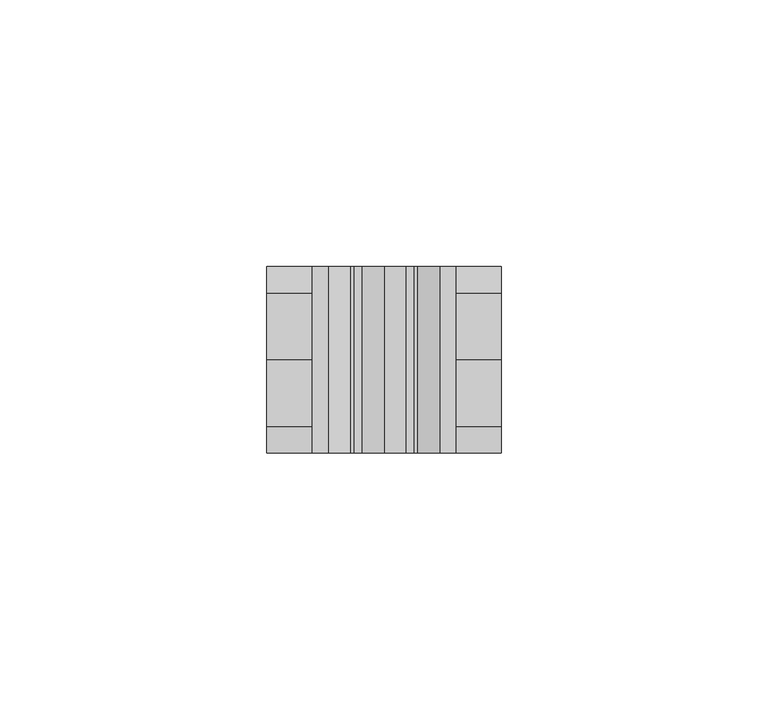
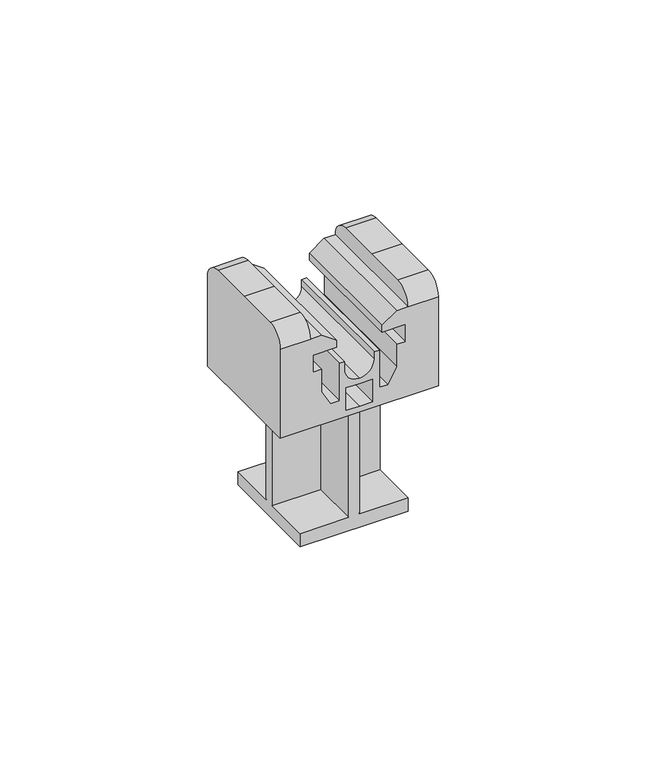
"""IFC4 building model written with IfcOpenShell, lengths in millimetres: proxy geometry, КНС_ДержательУниверсальный_DKC : ND2000_Полипропилен."""

from ifc_helpers import new_model, si_unit, frame, origin, place, context, project, spatial, polyline, circle_curve, faceted_brep, source, transform, mapped, element, save
from ifc_brep_helpers import plane_surface, cylinder_surface, revolved_surface, advanced_brep


def security_devices_8e15ad44(model_context):
    return source(origin(), model_context, "Body", "SolidModel", [
        faceted_brep([(-1.5, 15.0, 3.8934606), (-15.0, 15.0, 3.8934606), (-15.0, 1.5, 3.8934606), (-1.5, 1.5, 3.8934606), (15.0, 15.0, 3.8934606), (1.5, 15.0, 3.8934606), (1.5, 1.5, 3.8934606), (15.0, 1.5, 3.8934606), (-15.0, -1.5, 3.8934606), (-15.0, -15.0, 3.8934606), (-1.5, -15.0, 3.8934606), (-1.5, -1.5, 3.8934606), (1.5, -15.0, 3.8934606), (15.0, -15.0, 3.8934606), (15.0, -1.5, 3.8934606), (1.5, -1.5, 3.8934606), (15.0, 15.0, 0.0), (15.0, -15.0, 0.0), (-15.0, -15.0, 0.0), (-15.0, 15.0, 0.0), (-1.5, 15.0, 35.8420506), (1.5, 15.0, 35.8420506), (-15.0, -1.5, 35.8420506), (-15.0, 1.5, 35.8420506), (1.5, -15.0, 35.8420506), (-1.5, -15.0, 35.8420506), (15.0, 1.5, 35.8420506), (15.0, -1.5, 35.8420506), (-1.5, 1.5, 35.8420506), (-1.5, -1.5, 35.8420506), (1.5, -1.5, 35.8420506), (1.5, 1.5, 35.8420506)], [[[0, 1, 2, 3]], [[4, 5, 6, 7]], [[8, 9, 10, 11]], [[12, 13, 14, 15]], [[16, 17, 18, 19]], [[4, 16, 19, 1, 0, 20, 21, 5]], [[1, 19, 18, 9, 8, 22, 23, 2]], [[9, 18, 17, 13, 12, 24, 25, 10]], [[16, 4, 7, 26, 27, 14, 13, 17]], [[21, 20, 28, 23, 22, 29, 25, 24, 30, 27, 26, 31]], [[28, 20, 0, 3]], [[23, 28, 3, 2]], [[29, 22, 8, 11]], [[25, 29, 11, 10]], [[30, 24, 12, 15]], [[27, 30, 15, 14]], [[31, 26, 7, 6]], [[21, 31, 6, 5]]]),
        advanced_brep(
        [(22.0, 0.0, 35.8420506), (22.0, 17.5, 35.8420506), (22.0, 17.5, 62.0321332), (22.0, 12.5321332, 67.0), (22.0, 0.0, 67.0), (22.0, -12.5321332, 67.0), (22.0, -17.5, 62.0321332), (22.0, -17.5, 35.8420506), (-22.0, 0.0, 35.8420506), (-22.0, -17.5, 35.8420506), (-22.0, -17.5, 62.0321332), (-22.0, -12.5321332, 67.0), (-22.0, 0.0, 67.0), (-22.0, 12.5321332, 67.0), (-22.0, 17.5, 62.0321332), (-22.0, 17.5, 35.8420506), (-13.5891675, 17.5, 62.0321332), (-10.4652694, 17.5, 62.0), (-6.3236182, 17.5, 59.1321178), (-6.3236182, 17.5, 57.1011985), (-12.8526517, 17.5, 57.1011985), (-12.8526517, 17.5, 52.1011985), (-10.5094996, 17.5, 52.1011985), (-10.5094996, 17.5, 45.4755595), (-8.0094996, 17.5, 41.1454325), (-5.5528318, 17.5, 41.1454325), (-5.5528318, 17.5, 52.1011985), (-4.1714445, 17.5, 52.1011985), (-4.1714445, 17.5, 49.9720018), (0.0, 17.5, 45.7844871), (4.1714445, 17.5, 49.9720018), (4.1714445, 17.5, 52.1011985), (5.5528318, 17.5, 52.1011985), (5.5528318, 17.5, 41.1454325), (8.0094996, 17.5, 41.1454325), (10.5094996, 17.5, 45.4755595), (10.5094996, 17.5, 52.1011985), (12.8526517, 17.5, 52.1011985), (12.8526517, 17.5, 57.1011985), (6.3236182, 17.5, 57.1011985), (6.3236182, 17.5, 59.1321178), (10.4652694, 17.5, 62.0321332), (13.5891675, 17.5, 62.0), (0.0, 17.5, 44.2529558), (-3.6772154, 17.5, 44.2529558), (-3.6772154, 17.5, 37.6294335), (0.0, 17.5, 37.6294335), (3.6772154, 17.5, 37.6294335), (3.6772154, 17.5, 44.2529558), (13.5891675, 12.5321332, 67.0), (-13.5891675, 12.5321332, 67.0), (13.5891675, 0.0, 67.0), (-13.5891675, 0.0, 67.0), (13.5891675, -12.5321332, 67.0), (-13.5891675, -12.5321332, 67.0), (13.5891675, -17.5, 62.0321332), (-13.5891675, -17.5, 62.0321332), (10.4652694, -17.5, 62.0), (6.3236182, -17.5, 59.1321178), (6.3236182, -17.5, 57.1011985), (12.8526517, -17.5, 57.1011985), (12.8526517, -17.5, 52.1011985), (10.5094996, -17.5, 52.1011985), (10.5094996, -17.5, 45.4755595), (8.0094996, -17.5, 41.1454325), (5.5528318, -17.5, 41.1454325), (5.5528318, -17.5, 52.1011985), (4.1714445, -17.5, 52.1011985), (4.1714445, -17.5, 49.9720018), (0.0, -17.5, 45.7844871), (-4.1714445, -17.5, 49.9720018), (-4.1714445, -17.5, 52.1011985), (-5.5528318, -17.5, 52.1011985), (-5.5528318, -17.5, 41.1454325), (-8.0094996, -17.5, 41.1454325), (-10.5094996, -17.5, 45.4755595), (-10.5094996, -17.5, 52.1011985), (-12.8526517, -17.5, 52.1011985), (-12.8526517, -17.5, 57.1011985), (-6.3236182, -17.5, 57.1011985), (-6.3236182, -17.5, 59.1321178), (-10.4652694, -17.5, 62.0321332), (-3.6772154, -17.5, 44.2529558), (0.0, -17.5, 44.2529558), (3.6772154, -17.5, 44.2529558), (3.6772154, -17.5, 37.6294335), (0.0, -17.5, 37.6294335), (-3.6772154, -17.5, 37.6294335)],
        [
            (0, 1),
            (1, 2),
            (2, 3, circle_curve(frame((22.0, 12.5321332, 62.0321332), z_axis=(1.0, 0.0, 0.0), x_axis=(0.0, 1.0, 0.0)), 4.9678668)),
            (3, 4),
            (4, 5),
            (5, 6, circle_curve(frame((22.0, -12.5321332, 62.0321332), z_axis=(1.0, 0.0, 0.0), x_axis=(0.0, 1.0, 0.0)), 4.9678668)),
            (6, 7),
            (7, 0),
            (8, 9),
            (9, 10),
            (10, 11, circle_curve(frame((-22.0, -12.5321332, 62.0321332), z_axis=(-1.0, 0.0, 0.0), x_axis=(0.0, 1.0, 0.0)), 4.9678668)),
            (11, 12),
            (12, 13),
            (13, 14, circle_curve(frame((-22.0, 12.5321332, 62.0321332), z_axis=(-1.0, 0.0, 0.0), x_axis=(0.0, 1.0, 0.0)), 4.9678668)),
            (14, 15),
            (15, 8),
            (0, 8),
            (15, 1),
            (14, 16),
            (16, 17),
            (17, 18),
            (18, 19),
            (19, 20),
            (20, 21),
            (21, 22),
            (22, 23),
            (23, 24),
            (24, 25),
            (25, 26),
            (26, 27),
            (27, 28),
            (28, 29, circle_curve(frame((0.0161011, 17.5, 49.9720018), z_axis=(0.0, -1.0, 0.0), x_axis=(1.0, 0.0, 0.0)), 4.1875456)),
            (29, 30, circle_curve(frame((-0.0161011, 17.5, 49.9720018), z_axis=(0.0, -1.0, 0.0), x_axis=(1.0, 0.0, 0.0)), 4.1875456)),
            (30, 31),
            (31, 32),
            (32, 33),
            (33, 34),
            (34, 35),
            (35, 36),
            (36, 37),
            (37, 38),
            (38, 39),
            (39, 40),
            (40, 41),
            (41, 42),
            (42, 2),
            (43, 44),
            (44, 45),
            (45, 46),
            (46, 47),
            (47, 48),
            (48, 43),
            (42, 49, circle_curve(frame((13.5891675, 12.5321332, 62.0321332), z_axis=(1.0, 0.0, 0.0), x_axis=(0.0, 1.0, 0.0)), 4.9678668)),
            (49, 3),
            (13, 50),
            (50, 16, circle_curve(frame((-13.5891675, 12.5321332, 62.0321332), z_axis=(-1.0, 0.0, 0.0), x_axis=(0.0, 1.0, 0.0)), 4.9678668)),
            (49, 51),
            (51, 4),
            (12, 52),
            (52, 50),
            (51, 53),
            (53, 5),
            (11, 54),
            (54, 52),
            (53, 55, circle_curve(frame((13.5891675, -12.5321332, 62.0321332), z_axis=(1.0, 0.0, 0.0), x_axis=(0.0, 1.0, 0.0)), 4.9678668)),
            (55, 6),
            (10, 56),
            (56, 54, circle_curve(frame((-13.5891675, -12.5321332, 62.0321332), z_axis=(-1.0, 0.0, 0.0), x_axis=(0.0, 1.0, 0.0)), 4.9678668)),
            (55, 57),
            (57, 58),
            (58, 59),
            (59, 60),
            (60, 61),
            (61, 62),
            (62, 63),
            (63, 64),
            (64, 65),
            (65, 66),
            (66, 67),
            (67, 68),
            (68, 69, circle_curve(frame((-0.0161011, -17.5, 49.9720018), z_axis=(0.0, 1.0, 0.0), x_axis=(1.0, 0.0, 0.0)), 4.1875456)),
            (69, 70, circle_curve(frame((0.0161011, -17.5, 49.9720018), z_axis=(0.0, 1.0, 0.0), x_axis=(1.0, 0.0, 0.0)), 4.1875456)),
            (70, 71),
            (71, 72),
            (72, 73),
            (73, 74),
            (74, 75),
            (75, 76),
            (76, 77),
            (77, 78),
            (78, 79),
            (79, 80),
            (80, 81),
            (81, 56),
            (9, 7),
            (82, 83),
            (83, 84),
            (84, 85),
            (85, 86),
            (86, 87),
            (87, 82),
            (56, 16),
            (81, 17),
            (80, 18),
            (79, 19),
            (78, 20),
            (77, 21),
            (76, 22),
            (75, 23),
            (74, 24),
            (73, 25),
            (72, 26),
            (71, 27),
            (70, 28),
            (69, 29),
            (68, 30),
            (67, 31),
            (66, 32),
            (65, 33),
            (64, 34),
            (63, 35),
            (62, 36),
            (61, 37),
            (60, 38),
            (59, 39),
            (58, 40),
            (57, 41),
            (55, 42),
            (43, 83),
            (82, 44),
            (87, 45),
            (86, 46),
            (85, 47),
            (84, 48),
        ],
        [
            plane_surface(frame((22.0, 17.5, 35.8420506), z_axis=(1.0, 0.0, 0.0), x_axis=(0.0, 1.0, 0.0))),
            plane_surface(frame((-22.0, 17.5, 35.8420506), z_axis=(-1.0, 0.0, 0.0), x_axis=(0.0, -1.0, 0.0))),
            plane_surface(frame((22.0, 0.0, 35.8420506), z_axis=(0.0, 0.0, -1.0), x_axis=(-1.0, 0.0, 0.0))),
            plane_surface(frame((22.0, 17.5, 35.8420506), z_axis=(0.0, 1.0, 0.0), x_axis=(-1.0, 0.0, 0.0))),
            cylinder_surface(frame((-22.0, 12.5321332, 62.0321332), z_axis=(1.0, 0.0, 0.0), x_axis=(0.0, 1.0, 0.0)), 4.9678668),
            plane_surface(frame((22.0, 12.5321332, 67.0), z_axis=(0.0, 0.0, 1.0), x_axis=(-1.0, 0.0, 0.0))),
            plane_surface(frame((22.0, 0.0, 67.0), z_axis=(0.0, 0.0, 1.0), x_axis=(-1.0, 0.0, 0.0))),
            cylinder_surface(frame((-22.0, -12.5321332, 62.0321332), z_axis=(1.0, 0.0, 0.0), x_axis=(0.0, 1.0, 0.0)), 4.9678668),
            plane_surface(frame((22.0, -17.5, 62.0321332), z_axis=(0.0, -1.0, 0.0), x_axis=(-1.0, 0.0, 0.0))),
            plane_surface(frame((22.0, -17.5, 35.8420506), z_axis=(0.0, 0.0, -1.0), x_axis=(-1.0, 0.0, 0.0))),
            plane_surface(frame((-13.5891675, -65.0, 67.0), z_axis=(1.0, 0.0, 0.0), x_axis=(0.0, 1.0, 0.0))),
            plane_surface(frame((-13.5891675, -65.0, 62.0), z_axis=(0.0, 0.0, 1.0), x_axis=(0.0, 1.0, 0.0))),
            plane_surface(frame((-10.4193784, -65.0, 62.0), z_axis=(0.5735764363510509, 0.0, 0.8191520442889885), x_axis=(0.0, 1.0, 0.0))),
            plane_surface(frame((-6.3236182, -65.0, 59.1321178), z_axis=(1.0, 0.0, 0.0), x_axis=(0.0, 1.0, 0.0))),
            plane_surface(frame((-6.3236182, -65.0, 57.1011985), z_axis=(0.0, 0.0, -1.0), x_axis=(0.0, 1.0, 0.0))),
            plane_surface(frame((-12.8526517, -65.0, 57.1011985), z_axis=(1.0, 0.0, 0.0), x_axis=(0.0, 1.0, 0.0))),
            plane_surface(frame((-12.8526517, -65.0, 52.1011985), z_axis=(0.0, 0.0, 1.0), x_axis=(0.0, 1.0, 0.0))),
            plane_surface(frame((-10.5094996, -65.0, 52.1011985), z_axis=(1.0, 0.0, 0.0), x_axis=(0.0, 1.0, 0.0))),
            plane_surface(frame((-10.5094996, -65.0, 45.4755595), z_axis=(0.8660254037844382, 0.0, 0.5000000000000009), x_axis=(0.0, 1.0, 0.0))),
            plane_surface(frame((-8.0094996, -65.0, 41.1454325), z_axis=(0.0, 0.0, 1.0), x_axis=(0.0, 1.0, 0.0))),
            plane_surface(frame((-5.5528318, -65.0, 41.1454325), z_axis=(-1.0, 0.0, 0.0), x_axis=(0.0, 1.0, 0.0))),
            plane_surface(frame((-5.5528318, -65.0, 52.1011985), z_axis=(0.0, 0.0, 1.0), x_axis=(0.0, 1.0, 0.0))),
            plane_surface(frame((-4.1714445, -65.0, 52.1011985), z_axis=(1.0, 0.0, 0.0), x_axis=(0.0, 1.0, 0.0))),
            revolved_surface(polyline([(4.2036467, -17.499999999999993, 49.9720018), (4.2036467, 17.5, 49.9720018)]), (0.0161011, 57.7051191, 49.9720018), (0.0, -1.0, 0.0)),
            revolved_surface(polyline([(4.1714445, -17.499999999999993, 49.9720018), (4.1714445, 17.5, 49.9720018)]), (-0.0161011, 57.7051191, 49.9720018), (0.0, -1.0, 0.0)),
            plane_surface(frame((4.1714445, -65.0, 49.9720018), z_axis=(-1.0, 0.0, 0.0), x_axis=(0.0, 1.0, 0.0))),
            plane_surface(frame((4.1714445, -65.0, 52.1011985), z_axis=(0.0, 0.0, 1.0), x_axis=(0.0, 1.0, 0.0))),
            plane_surface(frame((5.5528318, -65.0, 52.1011985), z_axis=(1.0, 0.0, 0.0), x_axis=(0.0, 1.0, 0.0))),
            plane_surface(frame((5.5528318, -65.0, 41.1454325), z_axis=(0.0, 0.0, 1.0), x_axis=(0.0, 1.0, 0.0))),
            plane_surface(frame((8.0094996, -65.0, 41.1454325), z_axis=(-0.8660254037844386, 0.0, 0.5000000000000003), x_axis=(0.0, 1.0, 0.0))),
            plane_surface(frame((10.5094996, -65.0, 45.4755595), z_axis=(-1.0, 0.0, 0.0), x_axis=(0.0, 1.0, 0.0))),
            plane_surface(frame((10.5094996, -65.0, 52.1011985), z_axis=(0.0, 0.0, 1.0), x_axis=(0.0, 1.0, 0.0))),
            plane_surface(frame((12.8526517, -65.0, 52.1011985), z_axis=(-1.0, 0.0, 0.0), x_axis=(0.0, 1.0, 0.0))),
            plane_surface(frame((12.8526517, -65.0, 57.1011985), z_axis=(0.0, 0.0, -1.0), x_axis=(0.0, 1.0, 0.0))),
            plane_surface(frame((6.3236182, -65.0, 57.1011985), z_axis=(-1.0, 0.0, 0.0), x_axis=(0.0, 1.0, 0.0))),
            plane_surface(frame((6.3236182, -65.0, 59.1321178), z_axis=(-0.5735764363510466, 0.0, 0.8191520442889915), x_axis=(0.0, 1.0, 0.0))),
            plane_surface(frame((10.4193784, -65.0, 62.0), z_axis=(0.0, 0.0, 1.0), x_axis=(0.0, 1.0, 0.0))),
            plane_surface(frame((13.5891675, -65.0, 62.0), z_axis=(-1.0, 0.0, 0.0), x_axis=(0.0, 1.0, 0.0))),
            plane_surface(frame((0.0, -65.0, 44.2529558), z_axis=(0.0, 0.0, -1.0), x_axis=(0.0, 1.0, 0.0))),
            plane_surface(frame((-3.6772154, -65.0, 44.2529558), z_axis=(1.0, 0.0, 0.0), x_axis=(0.0, 1.0, 0.0))),
            plane_surface(frame((-3.6772154, -65.0, 37.6294335), z_axis=(0.0, 0.0, 1.0), x_axis=(0.0, 1.0, 0.0))),
            plane_surface(frame((0.0, -65.0, 37.6294335), z_axis=(0.0, 0.0, 1.0), x_axis=(0.0, 1.0, 0.0))),
            plane_surface(frame((3.6772154, -65.0, 37.6294335), z_axis=(-1.0, 0.0, 0.0), x_axis=(0.0, 1.0, 0.0))),
            plane_surface(frame((3.6772154, -65.0, 44.2529558), z_axis=(0.0, 0.0, -1.0), x_axis=(0.0, 1.0, 0.0))),
        ],
        [
            (0, [[1, 2, 3, 4, 5, 6, 7, 8]]),
            (1, [[9, 10, 11, 12, 13, 14, 15, 16]]),
            (2, [[-1, 17, -16, 18]]),
            (3, [[-2, -18, -15, 19, 20, 21, 22, 23, 24, 25, 26, 27, 28, 29, 30, 31, 32, 33, 34, 35, 36, 37, 38, 39, 40, 41, 42, 43, 44, 45, 46], [47, 48, 49, 50, 51, 52]]),
            (4, [[-3, -46, 53, 54]]),
            (4, [[-14, 55, 56, -19]]),
            (5, [[-4, -54, 57, 58]]),
            (5, [[-13, 59, 60, -55]]),
            (6, [[-5, -58, 61, 62]]),
            (6, [[-12, 63, 64, -59]]),
            (7, [[-6, -62, 65, 66]]),
            (7, [[-11, 67, 68, -63]]),
            (8, [[-7, -66, 69, 70, 71, 72, 73, 74, 75, 76, 77, 78, 79, 80, 81, 82, 83, 84, 85, 86, 87, 88, 89, 90, 91, 92, 93, 94, -67, -10, 95], [96, 97, 98, 99, 100, 101]]),
            (9, [[-8, -95, -9, -17]]),
            (10, [[102, -56, -60, -64, -68]]),
            (11, [[-102, -94, 103, -20]]),
            (12, [[-103, -93, 104, -21]]),
            (13, [[-104, -92, 105, -22]]),
            (14, [[-105, -91, 106, -23]]),
            (15, [[-106, -90, 107, -24]]),
            (16, [[-107, -89, 108, -25]]),
            (17, [[-108, -88, 109, -26]]),
            (18, [[-109, -87, 110, -27]]),
            (19, [[-110, -86, 111, -28]]),
            (20, [[-111, -85, 112, -29]]),
            (21, [[-112, -84, 113, -30]]),
            (22, [[-113, -83, 114, -31]]),
            (23, [[-114, -82, 115, -32]]),
            (24, [[-115, -81, 116, -33]]),
            (25, [[-116, -80, 117, -34]]),
            (26, [[-117, -79, 118, -35]]),
            (27, [[-118, -78, 119, -36]]),
            (28, [[-119, -77, 120, -37]]),
            (29, [[-120, -76, 121, -38]]),
            (30, [[-121, -75, 122, -39]]),
            (31, [[-122, -74, 123, -40]]),
            (32, [[-123, -73, 124, -41]]),
            (33, [[-124, -72, 125, -42]]),
            (34, [[-125, -71, 126, -43]]),
            (35, [[127, -44, -126, -70]]),
            (36, [[-127, -69, 128, -45]]),
            (37, [[-128, -65, -61, -57, -53]]),
            (38, [[129, -96, 130, -47]]),
            (39, [[-130, -101, 131, -48]]),
            (40, [[-131, -100, 132, -49]]),
            (41, [[-132, -99, 133, -50]]),
            (42, [[-133, -98, 134, -51]]),
            (43, [[-129, -52, -134, -97]]),
        ],
    ),
    ])


if __name__ == "__main__":
    model = new_model("IFC4")
    model_context = context("Model", 3, world=origin())
    ifc_project = project(units=[si_unit("LENGTHUNIT", "METRE", prefix="MILLI")], contexts=[model_context])
    site = spatial("IfcSite", under=ifc_project)
    building = spatial("IfcBuilding", under=site)
    placement = place(None, origin())
    security_devices_shape = security_devices_8e15ad44(model_context)
    element("IfcBuildingElementProxy", 1, Name="КНС_ДержательУниверсальный_DKC : ND2000_Полипропилен", ObjectType="КНС_ДержательУниверсальный_DKC : ND2000_Полипропилен", at=placement, inside=building, context=model_context, shape_type="MappedRepresentation", body=[
        mapped(security_devices_shape, transform((0.0, 0.0, 0.0), x_axis=(1.0, 0.0, 0.0), y_axis=(0.0, 1.0, 0.0), z_axis=(0.0, 0.0, 1.0))),
    ])
    save(model, "model.ifc")
